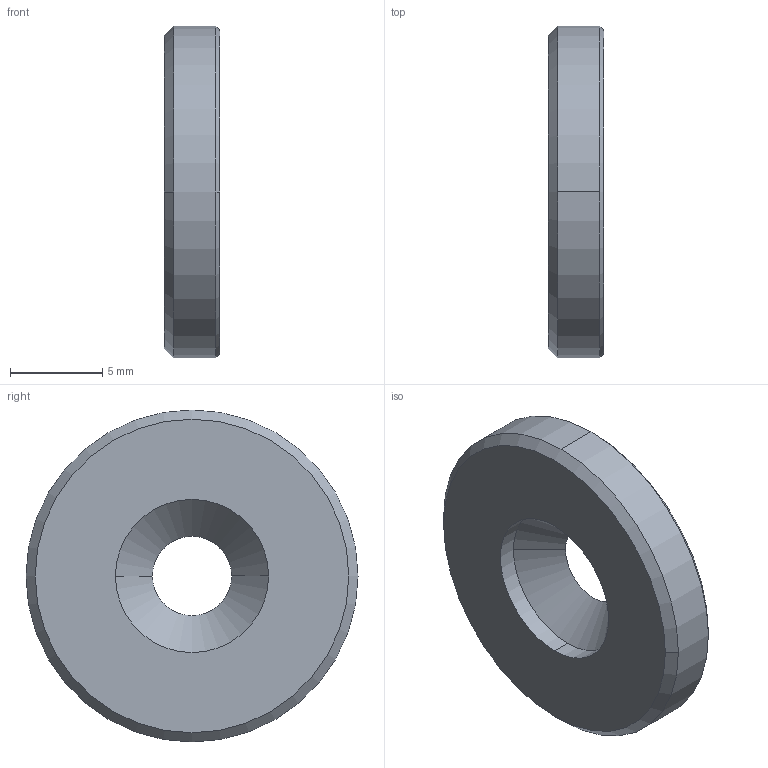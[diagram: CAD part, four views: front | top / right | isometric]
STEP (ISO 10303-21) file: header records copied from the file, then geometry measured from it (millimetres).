
FILE_DESCRIPTION (( 'STEP AP203' ), '1' );
FILE_NAME ('030 Rondelle de Butée.STEP', '2021-10-27T18:27:31', ( '' ), ( '' ), 'SwSTEP 2.0', 'SolidWorks 2019', '' );
FILE_SCHEMA (( 'CONFIG_CONTROL_DESIGN' ));
Length unit declared in the file: millimetre
Products named in the file (1): 030 Rondelle de Butée
Bounding box: 3 x 18 x 18 mm (x, y, z)
Volume: 636.8 mm3; surface area: 668.4 mm2
Topology: 1 solids, 1 shells, 12 faces, 30 edges, 20 vertices
Faces by surface type: bspline 6, cylinder 4, plane 2
Entity records: 473 total; most frequent: CARTESIAN_POINT 105, DIRECTION 64, ORIENTED_EDGE 60, EDGE_CURVE 30, AXIS2_PLACEMENT_3D 27, CIRCLE 20, VERTEX_POINT 20, EDGE_LOOP 14
